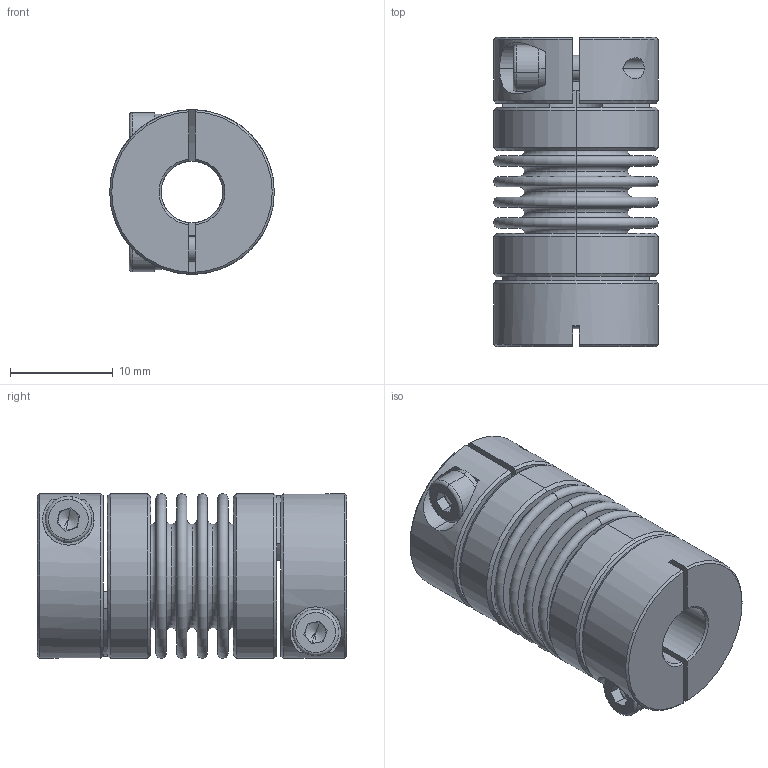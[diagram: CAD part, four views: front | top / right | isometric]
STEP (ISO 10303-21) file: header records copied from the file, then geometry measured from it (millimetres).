
FILE_DESCRIPTION (( 'STEP AP203' ), '1' );
FILE_NAME ('LB-B-D16L30-6-6.STEP', '2021-11-04T01:14:16', ( '' ), ( '' ), 'SwSTEP 2.0', 'SolidWorks 2018', '' );
FILE_SCHEMA (( 'CONFIG_CONTROL_DESIGN' ));
Length unit declared in the file: millimetre
Products named in the file (2): 零件1^LB-B-D16L30 波纹管联轴器-组装体; LB-B-D16L30-6-6
Assembly tree (1 placements, depth 2):
  LB-B-D16L30-6-6
    零件1^LB-B-D16L30 波纹管联轴器-组装体
Bounding box: 16 x 30.04 x 16 mm (x, y, z)
Volume: 3127.3 mm3; surface area: 6443.9 mm2
Topology: 1 solids, 1 shells, 254 faces, 586 edges, 362 vertices
Faces by surface type: plane 86, torus 68, cylinder 66, cone 34
Entity records: 7660 total; most frequent: CARTESIAN_POINT 1472, DIRECTION 1420, ORIENTED_EDGE 1164, AXIS2_PLACEMENT_3D 622, EDGE_CURVE 582, CIRCLE 364, VERTEX_POINT 362, EDGE_LOOP 296
